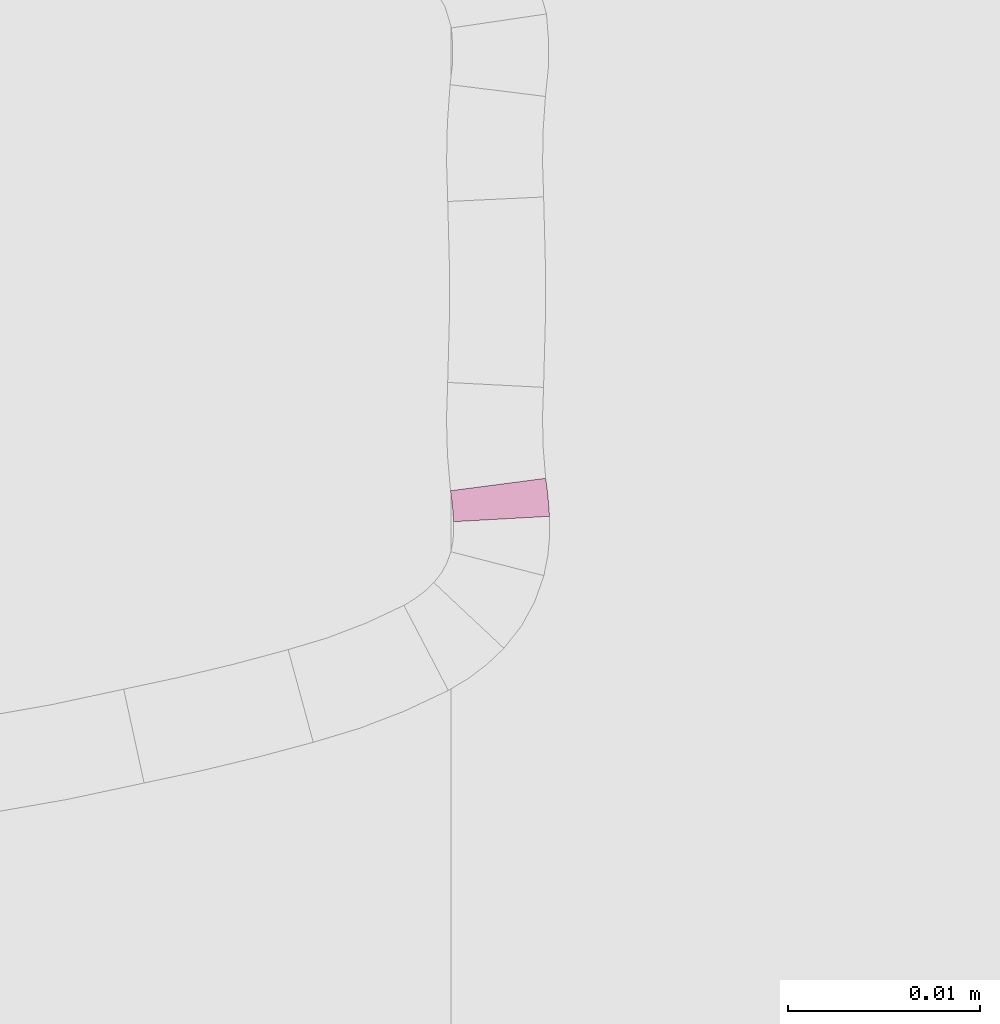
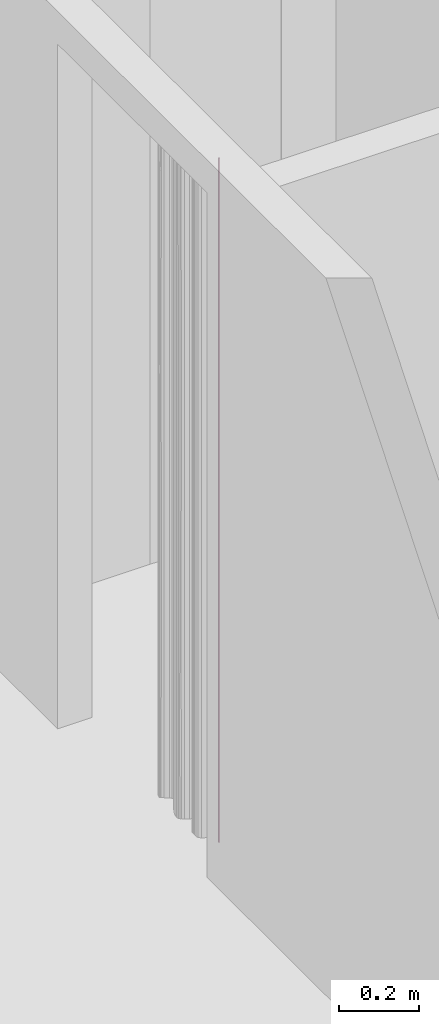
# One storey, part 242 of 418: 1 furnishing.
"""IFC2X3 building model written with IfcOpenShell, lengths in millimetres."""

import ifcopenshell
import ifcopenshell.guid

model = None  # the IFC model being written
_history = None  # IfcOwnerHistory: only IFC2X3 demands one
_inside = {}  # id of a spatial element -> (the spatial element, [elements in it])
_under = {}  # id of a project, library or spatial element -> (it, [spatial elements below it])
_declared = {}  # id of a project -> (the project, [libraries it declares])
_typed = {}  # id of a type object -> (the type object, [elements of that type])
_made_of = {}  # id of a material, layer set ... -> (it, [elements and type objects made of it])


def new_model(schema):
    """Start an empty IFC model of exactly this schema.

    Asked for "IFC4X3", IfcOpenShell would pick the latest addendum, in which some entities
    have other attributes; the version numbers below select the first issue.
    IFC2X3 requires an IfcOwnerHistory on every rooted entity: one is made here for all.
    """
    global model, _history
    if schema == "IFC4X3":
        model = ifcopenshell.file(schema_version=(4, 3, 0, 0))
    else:
        model = ifcopenshell.file(schema=schema)
    _inside.clear()
    _under.clear()
    _declared.clear()
    _typed.clear()
    _made_of.clear()
    _history = None
    if model.schema == "IFC2X3":
        org = make("IfcOrganization", Name="unknown")
        user = make(
            "IfcPersonAndOrganization",
            ThePerson=make("IfcPerson", FamilyName="unknown"),
            TheOrganization=org,
        )
        app = make(
            "IfcApplication",
            ApplicationDeveloper=org,
            Version="unknown",
            ApplicationFullName="unknown",
            ApplicationIdentifier="unknown",
        )
        _history = make(
            "IfcOwnerHistory",
            OwningUser=user,
            OwningApplication=app,
            ChangeAction="ADDED",
            CreationDate=0,
        )
    return model


def make(cls, **values):
    """One entity of the class cls with the attributes given. An attribute that is None is left unset."""
    return model.create_entity(
        cls, **{name: value for name, value in values.items() if value is not None}
    )


def entity(cls, *values):
    """Any entity or typed value of the class cls, its attributes in the order of the schema. None: left unset."""
    e = model.create_entity(cls)
    for i, value in enumerate(values):
        if value is not None:
            e[i] = value
    return e


def rooted(cls, **values):
    """An entity with a GlobalId (a new one), such as an element, a storey or a relation."""
    return make(cls, GlobalId=ifcopenshell.guid.new(), OwnerHistory=_history, **values)


def si_unit(unit_type, name, prefix=None):
    """IfcSIUnit, for example si_unit("LENGTHUNIT", "METRE", prefix="MILLI")."""
    return make("IfcSIUnit", UnitType=unit_type, Prefix=prefix, Name=name)


def converted_unit(unit_type, name, factor, base, dimensions=None, offset=None):
    """IfcConversionBasedUnit, such as the inch: factor (a typed value) times the base unit."""
    return make(
        "IfcConversionBasedUnit"
        if offset is None
        else "IfcConversionBasedUnitWithOffset",
        ConversionOffset=offset,
        Dimensions=None
        if dimensions is None
        else entity("IfcDimensionalExponents", *dimensions),
        UnitType=unit_type,
        Name=name,
        ConversionFactor=make(
            "IfcMeasureWithUnit", ValueComponent=factor, UnitComponent=base
        ),
    )


def derived_unit(unit_type, elements):
    """IfcDerivedUnit: a product of units, each with its exponent."""
    return make(
        "IfcDerivedUnit",
        Elements=[
            make("IfcDerivedUnitElement", Unit=unit, Exponent=power)
            for unit, power in elements
        ],
        UnitType=unit_type,
    )


def money_unit(currency):
    """IfcMonetaryUnit."""
    return make("IfcMonetaryUnit", Currency=currency)


def assignment(units):
    """IfcUnitAssignment: the units of a project."""
    return None if units is None else make("IfcUnitAssignment", Units=units)


def point(xyz):
    """IfcCartesianPoint."""
    return None if xyz is None else make("IfcCartesianPoint", Coordinates=xyz)


def direction(xyz):
    """IfcDirection."""
    return None if xyz is None else make("IfcDirection", DirectionRatios=xyz)


def frame(location, z_axis=None, x_axis=None):
    """IfcAxis2Placement3D, a coordinate frame: its origin and axes. An axis left out is left unset."""
    return make(
        "IfcAxis2Placement3D",
        Location=point(location),
        Axis=direction(z_axis),
        RefDirection=direction(x_axis),
    )


def frame_2d(location, x_axis=None):
    """IfcAxis2Placement2D, a coordinate frame in the plane: its origin and x axis."""
    return make(
        "IfcAxis2Placement2D", Location=point(location), RefDirection=direction(x_axis)
    )


def origin_with_axes():
    """The frame at (0, 0, 0) with the z axis (0, 0, 1) and the x axis (1, 0, 0) written out."""
    return frame((0.0, 0.0, 0.0), z_axis=(0.0, 0.0, 1.0), x_axis=(1.0, 0.0, 0.0))


def place(relative_to, where):
    """IfcLocalPlacement: puts the frame where relative to a parent placement (None: the world)."""
    return make(
        "IfcLocalPlacement", PlacementRelTo=relative_to, RelativePlacement=where
    )


def context(
    kind, dimensions, precision=None, world=None, true_north=None, identifier=None
):
    """IfcGeometricRepresentationContext, for example the 3D "Model" context."""
    return make(
        "IfcGeometricRepresentationContext",
        ContextIdentifier=identifier,
        ContextType=kind,
        CoordinateSpaceDimension=dimensions,
        Precision=precision,
        WorldCoordinateSystem=world,
        TrueNorth=true_north,
    )


def subcontext(parent, identifier, kind, view, scale=None):
    """IfcGeometricRepresentationSubContext, for example "Body" below "Model"."""
    return make(
        "IfcGeometricRepresentationSubContext",
        ContextIdentifier=identifier,
        ContextType=kind,
        ParentContext=parent,
        TargetScale=scale,
        TargetView=view,
    )


def project(units=None, contexts=None):
    """IfcProject with its units and contexts."""
    return rooted(
        "IfcProject",
        Name="project",
        RepresentationContexts=contexts,
        UnitsInContext=assignment(units),
    )


def spatial(cls, under=None, at=None, **own):
    """A site, building, storey or space (cls), placed at a placement, below another one or the project."""
    s = rooted(cls, ObjectPlacement=at, **own)
    if under is not None:
        _under.setdefault(under.id(), (under, []))[1].append(s)
    return s


def polyline(points):
    """IfcPolyline through the points."""
    return make("IfcPolyline", Points=[point(p) for p in points])


def circle_curve(where, radius):
    """IfcCircle in the frame where."""
    return make("IfcCircle", Position=where, Radius=radius)


def parameter(value):
    """IfcParameterValue: where a trimmed curve begins or ends, as a parameter of its basis curve."""
    return model.create_entity("IfcParameterValue", value)


def trimmed(basis, trim1, trim2, sense, master):
    """IfcTrimmedCurve: the piece of a basis curve between two trims."""
    return make(
        "IfcTrimmedCurve",
        BasisCurve=basis,
        Trim1=trim1,
        Trim2=trim2,
        SenseAgreement=sense,
        MasterRepresentation=master,
    )


def segment(curve, same_sense, transition):
    """IfcCompositeCurveSegment."""
    return make(
        "IfcCompositeCurveSegment",
        Transition=transition,
        SameSense=same_sense,
        ParentCurve=curve,
    )


def composite_curve(segments, self_intersect=None):
    """IfcCompositeCurve: segments joined end to end."""
    return make("IfcCompositeCurve", Segments=segments, SelfIntersect=self_intersect)


def outline(outer, holes=None, kind="AREA"):
    """IfcArbitraryClosedProfileDef: a profile drawn as a closed curve; with holes, ...WithVoids."""
    if holes is None:
        return make("IfcArbitraryClosedProfileDef", ProfileType=kind, OuterCurve=outer)
    return make(
        "IfcArbitraryProfileDefWithVoids",
        ProfileType=kind,
        OuterCurve=outer,
        InnerCurves=holes,
    )


def extrude(swept, where, along, depth):
    """IfcExtrudedAreaSolid: the profile swept, set in the frame where, extruded along a direction by depth."""
    return make(
        "IfcExtrudedAreaSolid",
        SweptArea=swept,
        Position=where,
        ExtrudedDirection=direction(along),
        Depth=depth,
    )


def shape(context_of_items, identifier, shape_type, items):
    """IfcShapeRepresentation: the items that make up one representation, for example the "Body"."""
    return make(
        "IfcShapeRepresentation",
        ContextOfItems=context_of_items,
        RepresentationIdentifier=identifier,
        RepresentationType=shape_type,
        Items=items,
    )


def material(Name=None, Category=None):
    """IfcMaterial."""
    return make("IfcMaterial", Name=Name, Category=Category)


def made_of(thing, what):
    """Note that an element or type object is made of a material, layer set ...; save() writes the relation."""
    if what is not None:
        _made_of.setdefault(what.id(), (what, []))[1].append(thing)
    return thing


def type_object(cls, material=None, **own):
    """A type object (cls), such as IfcWallType, which elements share."""
    return made_of(rooted(cls, **own), material)


def element(
    cls,
    number,
    at=None,
    inside=None,
    cuts=None,
    type_object=None,
    material=None,
    context=None,
    identifier="Body",
    shape_type=None,
    held_by="IfcProductDefinitionShape",
    body=None,
    shapes=None,
    **own,
):
    """One element of the class cls, such as IfcWall. Its Tag is "e" and its number.

    at: its placement. inside: the storey or other place that contains it. cuts: it is an
    opening in that element (IfcRelVoidsElement). A single representation is given by context,
    identifier, shape_type and body (its items); several are given by shapes. held_by: the class
    of the entity that holds the representations. save() writes the other relations.
    """
    e = rooted(cls, Tag="e%d" % number, ObjectPlacement=at, **own)
    if body is not None:
        shapes = [shape(context, identifier, shape_type, body)]
    if shapes is not None:
        e.Representation = make(held_by, Representations=shapes)
    if inside is not None:
        _inside.setdefault(inside.id(), (inside, []))[1].append(e)
    if cuts is not None:
        rooted(
            "IfcRelVoidsElement", RelatingBuildingElement=cuts, RelatedOpeningElement=e
        )
    if type_object is not None:
        _typed.setdefault(type_object.id(), (type_object, []))[1].append(e)
    return made_of(e, material)


def aggregate(whole, parts):
    """IfcRelAggregates: a whole, such as a stair, and the parts it consists of."""
    return rooted("IfcRelAggregates", RelatingObject=whole, RelatedObjects=parts)


def save(model, path):
    """Write the relations noted so far, then the file.

    IfcRelAggregates (storeys below a building ...), IfcRelContainedInSpatialStructure (elements
    in a storey), IfcRelDefinesByType, IfcRelAssociatesMaterial and IfcRelDeclares: one each for
    every whole, place, type object, material and project.
    """
    for whole, parts in _under.values():
        aggregate(whole, parts)
    for where, things in _inside.values():
        rooted(
            "IfcRelContainedInSpatialStructure",
            RelatedElements=things,
            RelatingStructure=where,
        )
    for kind, things in _typed.values():
        rooted("IfcRelDefinesByType", RelatedObjects=things, RelatingType=kind)
    for what, things in _made_of.values():
        rooted("IfcRelAssociatesMaterial", RelatedObjects=things, RelatingMaterial=what)
    for by, libraries in _declared.values():
        rooted("IfcRelDeclares", RelatingContext=by, RelatedDefinitions=libraries)
    model.write(path)


model = new_model("IFC2X3")

# Units and contexts
model_context = context("Model", 3, precision=0.01, world=origin_with_axes(), true_north=direction((0.0, 1.0)))
body_context = subcontext(model_context, "Body", "Model", "MODEL_VIEW")
ifc_project = project(units=[si_unit("LENGTHUNIT", "METRE", prefix="MILLI"), si_unit("AREAUNIT", "SQUARE_METRE"), si_unit("VOLUMEUNIT", "CUBIC_METRE"), converted_unit("PLANEANGLEUNIT", "DEGREE", entity("IfcPlaneAngleMeasure", 0.0174532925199), si_unit("PLANEANGLEUNIT", "RADIAN"), dimensions=[0, 0, 0, 0, 0, 0, 0]), si_unit("SOLIDANGLEUNIT", "STERADIAN"), money_unit("EUR"), converted_unit("TIMEUNIT", "Year", entity("IfcTimeMeasure", 31556926.0), si_unit("TIMEUNIT", "SECOND"), dimensions=[0, 0, 1, 0, 0, 0, 0]), si_unit("MASSUNIT", "GRAM", prefix="KILO"), si_unit("THERMODYNAMICTEMPERATUREUNIT", "DEGREE_CELSIUS"), si_unit("LUMINOUSINTENSITYUNIT", "LUMEN"), si_unit("ENERGYUNIT", "JOULE", prefix="MEGA"), derived_unit("THERMALCONDUCTANCEUNIT", [(si_unit("POWERUNIT", "WATT"), 1), (si_unit("LENGTHUNIT", "METRE"), -1), (si_unit("THERMODYNAMICTEMPERATUREUNIT", "KELVIN"), -1)]), derived_unit("SPECIFICHEATCAPACITYUNIT", [(si_unit("ENERGYUNIT", "JOULE"), 1), (si_unit("MASSUNIT", "GRAM", prefix="KILO"), -1), (si_unit("THERMODYNAMICTEMPERATUREUNIT", "KELVIN"), -1)]), derived_unit("MASSDENSITYUNIT", [(si_unit("MASSUNIT", "GRAM", prefix="KILO"), 1), (si_unit("VOLUMEUNIT", "CUBIC_METRE"), -1)])], contexts=[model_context])

# Site, building, storey
site_placement = place(None, origin_with_axes())
site = spatial("IfcSite", under=ifc_project, at=site_placement, Name="Paldiski mnt 245/1, Tallinn, Harjumaa", CompositionType="COMPLEX")
building_placement = place(site_placement, origin_with_axes())
building = spatial("IfcBuilding", under=site, at=building_placement, Name="RKAS Hoone üldnimetus (kasutust iseloomustav) -> IFC Project Manager -> SOLIBRI", CompositionType="ELEMENT")
storey_placement = place(building_placement, origin_with_axes())
storey = spatial("IfcBuildingStorey", under=building, at=storey_placement, Name="Esimene korrus", CompositionType="ELEMENT", Elevation=0.0)

# Furnishing
ifc_material = material(Name="KON-00_GENEERILINE - KONSTRUKTSIOON")
furniture_type = type_object("IfcFurnitureType", Name="KON-00_GENEERILINE - KONSTRUKTSIOON 5", AssemblyPlace="NOTDEFINED")
furnishing_placement = place(storey_placement, frame((-45022.2619411, -1252.4329743, 0.0), z_axis=(0.0, 0.0, 1.0), x_axis=(-0.0554818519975, 0.998459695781, 0.0)))
element("IfcFurnishingElement", 1, at=furnishing_placement, inside=storey, type_object=furniture_type, material=ifc_material, Name="SS-24", context=body_context, shape_type="SweptSolid", body=[
    extrude(outline(composite_curve([segment(trimmed(circle_curve(frame_2d((0.0, 17.1706879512), x_axis=(5.71586171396e-05, -0.999999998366)), 22.1706879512), [point((0.0012672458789, -4.99999996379)), parameter(0.0)], [point((1.99036286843, -4.91047732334)), parameter(5.14736058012)], True, "CARTESIAN"), True, "CONTINUOUS"), segment(polyline([(1.99036286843, -4.91047732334), (1.61899140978, 0.0764962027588)]), True, "CONTINUOUS"), segment(trimmed(circle_curve(frame_2d((0.0, 17.1706879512), x_axis=(0.0, -1.0)), 17.1706879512), [point((1.61899140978, 0.0764962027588)), parameter(5.41034658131)], [point((0.0, 0.0)), parameter(0.0)], False, "CARTESIAN"), True, "CONTINUOUS"), segment(polyline([(0.0, 0.0), (0.0012672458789, -4.99999996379)]), True, "CONTINUOUS")], self_intersect=False)), origin_with_axes(), (0.0, 0.0, 1.0), 2100.0),
])

save(model, "model.ifc")
